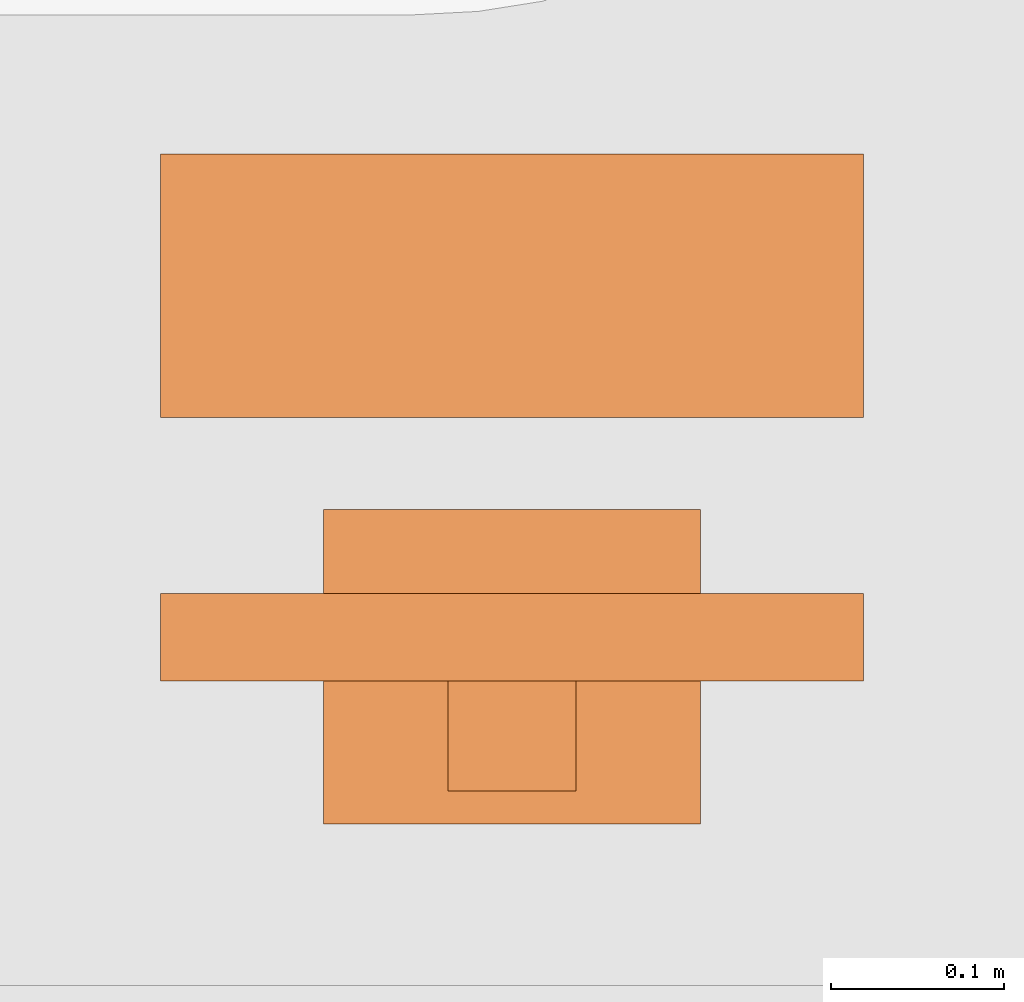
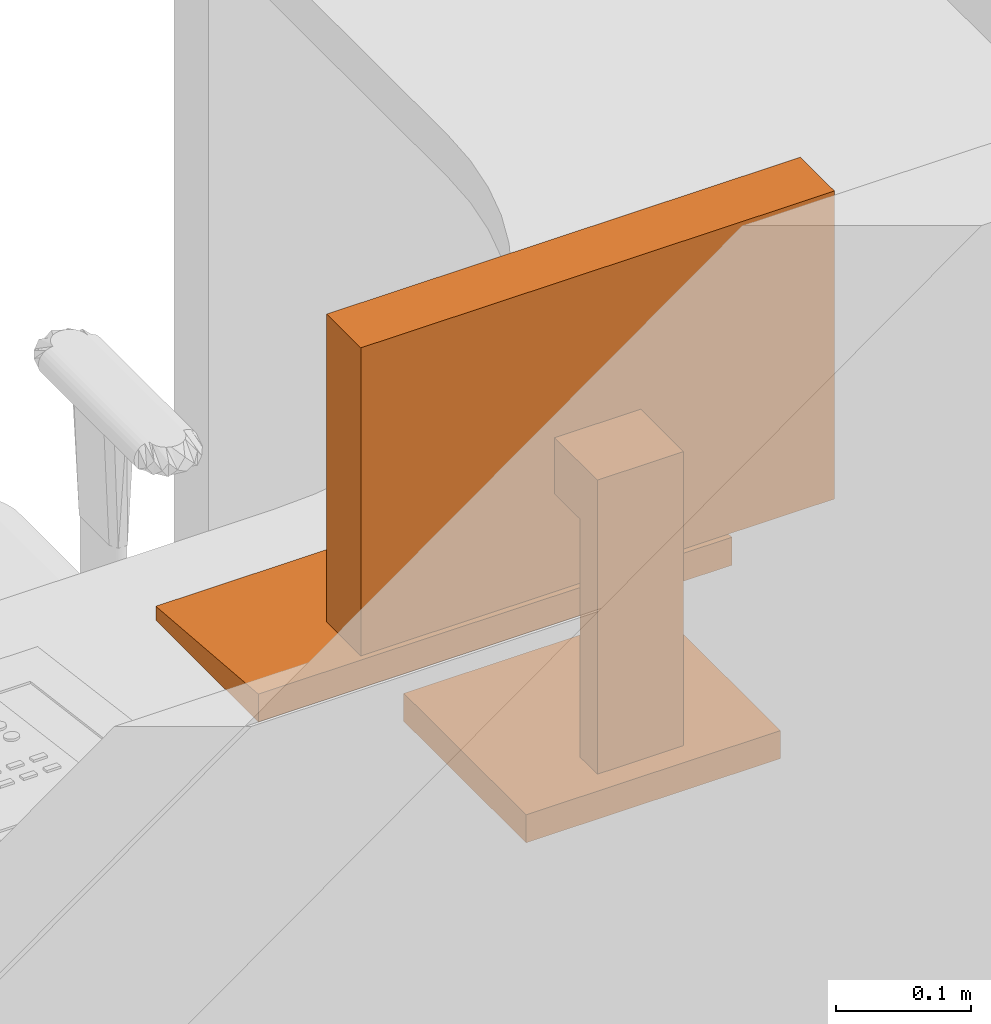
# One storey, part 80 of 142: 1 proxy.
"""IFC2X3 building model written with IfcOpenShell, lengths in feet."""

from ifc_helpers import new_model, entity, si_unit, converted_unit, derived_unit, direction, frame, origin, place, context, subcontext, project, spatial, faceted_brep, source, transform, mapped, type_object, type_shapes, element, save


model = new_model("IFC2X3")

# Units and contexts
model_context = context("Model", 3, precision=0.0001, world=origin(), true_north=direction((6.12303176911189e-17, 1.0)))
body_context = subcontext(model_context, "Body", "Model", "MODEL_VIEW")
ifc_project = project(units=[converted_unit("LENGTHUNIT", "FOOT", entity("IfcRatioMeasure", 0.3048), si_unit("LENGTHUNIT", "METRE"), dimensions=[1, 0, 0, 0, 0, 0, 0]), converted_unit("AREAUNIT", "SQUARE FOOT", entity("IfcRatioMeasure", 0.09290304), si_unit("AREAUNIT", "SQUARE_METRE"), dimensions=[2, 0, 0, 0, 0, 0, 0]), converted_unit("VOLUMEUNIT", "CUBIC FOOT", entity("IfcRatioMeasure", 0.028316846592), si_unit("VOLUMEUNIT", "CUBIC_METRE"), dimensions=[3, 0, 0, 0, 0, 0, 0]), converted_unit("PLANEANGLEUNIT", "DEGREE", entity("IfcRatioMeasure", 0.0174532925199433), si_unit("PLANEANGLEUNIT", "RADIAN"), dimensions=[0, 0, 0, 0, 0, 0, 0]), si_unit("MASSUNIT", "GRAM", prefix="KILO"), derived_unit("MASSDENSITYUNIT", [(si_unit("MASSUNIT", "GRAM", prefix="KILO"), 1), (si_unit("LENGTHUNIT", "METRE"), -3)]), si_unit("TIMEUNIT", "SECOND"), si_unit("FREQUENCYUNIT", "HERTZ"), si_unit("THERMODYNAMICTEMPERATUREUNIT", "DEGREE_CELSIUS"), derived_unit("THERMALTRANSMITTANCEUNIT", [(si_unit("MASSUNIT", "GRAM", prefix="KILO"), 1), (si_unit("THERMODYNAMICTEMPERATUREUNIT", "KELVIN"), -1), (si_unit("TIMEUNIT", "SECOND"), -3)]), derived_unit("VOLUMETRICFLOWRATEUNIT", [(si_unit("LENGTHUNIT", "METRE"), 3), (si_unit("TIMEUNIT", "SECOND"), -1)]), si_unit("ELECTRICCURRENTUNIT", "AMPERE"), si_unit("ELECTRICVOLTAGEUNIT", "VOLT"), si_unit("POWERUNIT", "WATT"), si_unit("FORCEUNIT", "NEWTON"), si_unit("ILLUMINANCEUNIT", "LUX"), si_unit("LUMINOUSFLUXUNIT", "LUMEN"), si_unit("LUMINOUSINTENSITYUNIT", "CANDELA"), derived_unit("USERDEFINED", [(si_unit("MASSUNIT", "GRAM", prefix="KILO"), -1), (si_unit("LENGTHUNIT", "METRE"), -2), (si_unit("TIMEUNIT", "SECOND"), 3), (si_unit("LUMINOUSFLUXUNIT", "LUMEN"), 1)]), derived_unit("LINEARVELOCITYUNIT", [(si_unit("LENGTHUNIT", "METRE"), 1), (si_unit("TIMEUNIT", "SECOND"), -1)]), si_unit("PRESSUREUNIT", "PASCAL"), derived_unit("USERDEFINED", [(si_unit("LENGTHUNIT", "METRE"), -2), (si_unit("MASSUNIT", "GRAM", prefix="KILO"), 1), (si_unit("TIMEUNIT", "SECOND"), -2)])], contexts=[model_context])

# Site, building, storey, space
site_placement = place(None, origin())
site = spatial("IfcSite", under=ifc_project, at=site_placement, Name="Default", CompositionType="ELEMENT")
building_placement = place(site_placement, origin())
building = spatial("IfcBuilding", under=site, at=building_placement, Name="OUTPATIENT / PACT CLINIC (Ch. 265)", CompositionType="ELEMENT")
storey_placement = place(building_placement, origin())
storey = spatial("IfcBuildingStorey", under=building, at=storey_placement, Name="LEVEL 1", CompositionType="ELEMENT", Elevation=0.0)
space_placement = place(storey_placement, origin())
space = spatial("IfcSpace", under=storey, at=space_placement, Name="WRTM1", CompositionType="ELEMENT", InteriorOrExteriorSpace="INTERNAL")

# Proxy
building_element_proxy_type = type_object("IfcBuildingElementProxyType", Name="M1801 - Computer with Flat Panel Monitor", PredefinedType="NOTDEFINED")
shared_shape = source(origin(), body_context, "Body", "Brep", [
    faceted_brep([(0.666666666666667, 0.5625, 0.0), (0.666666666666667, 0.5625, 0.0416666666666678), (0.666666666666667, 0.0624999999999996, 0.0833333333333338), (0.666666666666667, 0.0624999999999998, 0.0), (-0.666666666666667, 0.5625, 0.0), (-0.666666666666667, 0.0624999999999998, 0.0), (-0.666666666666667, 0.0624999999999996, 0.0833333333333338), (-0.666666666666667, 0.5625, 0.0416666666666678)], [[[0, 1, 2, 3]], [[4, 5, 6, 7]], [[3, 5, 4, 0]], [[2, 6, 5, 3]], [[1, 7, 6, 2]], [[0, 4, 7, 1]]]),
    faceted_brep([(0.666666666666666, -0.437223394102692, 1.41666666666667), (0.666666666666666, -0.271109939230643, 1.41666666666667), (-0.666666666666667, -0.271109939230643, 1.41666666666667), (-0.666666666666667, -0.437223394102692, 1.41666666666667), (0.666666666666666, -0.437223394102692, 0.500000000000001), (-0.666666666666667, -0.437223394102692, 0.500000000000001), (-0.666666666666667, -0.271109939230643, 0.500000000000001), (0.666666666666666, -0.271109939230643, 0.500000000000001), (-0.625, -0.271109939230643, 1.375), (-0.625, -0.271109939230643, 0.541666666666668), (0.625, -0.271109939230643, 0.541666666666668), (0.625, -0.271109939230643, 1.375), (0.625, -0.286812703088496, 1.375), (-0.625, -0.286812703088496, 1.375), (0.625, -0.286812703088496, 0.541666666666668), (-0.625, -0.286812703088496, 0.541666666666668)], [[[0, 1, 2, 3]], [[4, 5, 6, 7]], [[3, 5, 4, 0]], [[2, 6, 5, 3]], [[8, 9, 10, 11], [1, 7, 6, 2]], [[0, 4, 7, 1]], [[12, 13, 8, 11]], [[14, 10, 9, 15]], [[12, 14, 15, 13]], [[13, 15, 9, 8]], [[11, 10, 14, 12]]], outer=[[True], [True], [True], [True], [False, True], [True], [True], [True], [True], [True], [True]]),
    faceted_brep([(0.358011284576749, -0.111770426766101, 0.0833333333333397), (0.358011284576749, -0.708333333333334, 0.0833333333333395), (0.358011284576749, -0.708333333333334, 0.0), (0.358011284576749, -0.111770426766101, 0.0), (-0.358011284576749, -0.708333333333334, 0.0833333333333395), (-0.358011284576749, -0.111770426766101, 0.0833333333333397), (-0.358011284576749, -0.111770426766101, 0.0), (-0.358011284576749, -0.708333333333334, 0.0), (0.12128795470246, -0.645556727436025, 0.104166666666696), (-0.12128795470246, -0.645556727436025, 0.104166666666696), (-0.12128795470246, -0.645556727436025, 0.0833333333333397), (0.12128795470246, -0.645556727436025, 0.0833333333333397), (0.12128795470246, -0.645556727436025, 0.958333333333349), (-0.12128795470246, -0.645556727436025, 0.958333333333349), (0.12128795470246, -0.437223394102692, 0.958333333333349), (-0.12128795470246, -0.437223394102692, 0.958333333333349), (0.12128795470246, -0.437223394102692, 0.791666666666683), (-0.12128795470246, -0.437223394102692, 0.791666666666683), (0.12128795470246, -0.562223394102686, 0.791666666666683), (-0.12128795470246, -0.562223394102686, 0.791666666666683), (0.12128795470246, -0.562223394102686, 0.0833333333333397), (-0.12128795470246, -0.562223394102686, 0.0833333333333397)], [[[0, 1, 2, 3]], [[4, 5, 6, 7]], [[8, 9, 10, 11]], [[12, 13, 9, 8]], [[14, 15, 13, 12]], [[16, 17, 15, 14]], [[18, 19, 17, 16]], [[20, 21, 19, 18]], [[11, 10, 21, 20], [0, 5, 4, 1]], [[3, 6, 5, 0]], [[2, 7, 6, 3]], [[1, 4, 7, 2]], [[20, 18, 16, 14, 12, 8, 11]], [[10, 9, 13, 15, 17, 19, 21]]], outer=[[True], [True], [True], [True], [True], [True], [True], [True], [False, True], [True], [True], [True], [True], [True]]),
])
type_shapes(building_element_proxy_type, [shared_shape])
proxy_placement = place(space_placement, frame((416.878564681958, -934.455377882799, 2.49999999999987)))
element("IfcBuildingElementProxy", 1, at=proxy_placement, inside=space, type_object=building_element_proxy_type, Name="M1801 - Computer with Flat Panel Monitor:M1801 - Computer with Flat Panel Monitor", ObjectType="M1801 - Computer with Flat Panel Monitor", context=body_context, shape_type="MappedRepresentation", body=[
    mapped(shared_shape, transform((0.0, 0.0, 0.0), scale=1.0)),
])

save(model, "model.ifc")
